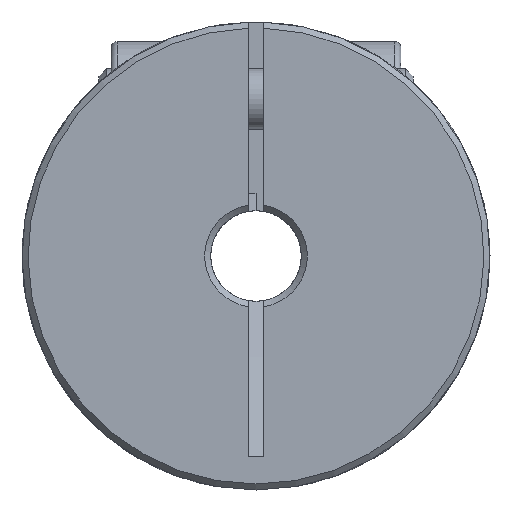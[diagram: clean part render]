
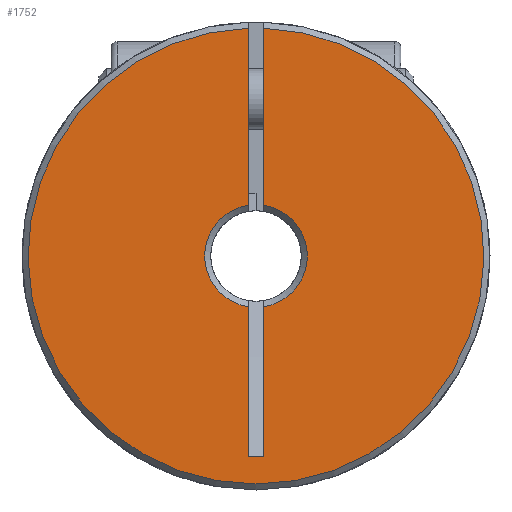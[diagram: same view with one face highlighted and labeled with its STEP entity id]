
A CAD part, left-side view. The second image highlights one B-rep face of the part: STEP entity #1752.
In plain terms, the highlighted planar face has unit normal (-1, 0, 0).
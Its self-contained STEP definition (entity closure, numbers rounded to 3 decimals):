
#132=LINE('',#2822,#212);
#135=LINE('',#2833,#215);
#138=LINE('',#2864,#218);
#143=LINE('',#2886,#223);
#144=LINE('',#2894,#224);
#212=VECTOR('',#2187,1000.);
#215=VECTOR('',#2192,1000.);
#218=VECTOR('',#2207,1000.);
#223=VECTOR('',#2216,1000.);
#224=VECTOR('',#2219,1000.);
#382=ORIENTED_EDGE('',*,*,#799,.T.);
#383=ORIENTED_EDGE('',*,*,#748,.F.);
#384=ORIENTED_EDGE('',*,*,#758,.F.);
#385=ORIENTED_EDGE('',*,*,#768,.T.);
#386=ORIENTED_EDGE('',*,*,#800,.T.);
#387=ORIENTED_EDGE('',*,*,#766,.T.);
#388=ORIENTED_EDGE('',*,*,#801,.F.);
#389=ORIENTED_EDGE('',*,*,#744,.F.);
#744=EDGE_CURVE('',#957,#958,#132,.T.);
#748=EDGE_CURVE('',#961,#962,#135,.T.);
#758=EDGE_CURVE('',#970,#961,#138,.T.);
#766=EDGE_CURVE('',#973,#977,#143,.T.);
#768=EDGE_CURVE('',#970,#978,#144,.T.);
#799=EDGE_CURVE('',#957,#962,#1122,.T.);
#800=EDGE_CURVE('',#978,#973,#1123,.T.);
#801=EDGE_CURVE('',#958,#977,#1124,.T.);
#957=VERTEX_POINT('',#2821);
#958=VERTEX_POINT('',#2823);
#961=VERTEX_POINT('',#2834);
#962=VERTEX_POINT('',#2835);
#970=VERTEX_POINT('',#2863);
#973=VERTEX_POINT('',#2873);
#977=VERTEX_POINT('',#2885);
#978=VERTEX_POINT('',#2892);
#1122=CIRCLE('',#1924,1.7);
#1123=CIRCLE('',#1925,1.7);
#1124=CIRCLE('',#1926,7.55);
#1245=EDGE_LOOP('',(#382,#383,#384,#385,#386,#387,#388,#389));
#1471=FACE_BOUND('',#1245,.T.);
#1680=PLANE('',#1923);
#1752=ADVANCED_FACE('',(#1471),#1680,.F.);
#1923=AXIS2_PLACEMENT_3D('',#3018,#2269,#2270);
#1924=AXIS2_PLACEMENT_3D('',#3019,#2271,#2272);
#1925=AXIS2_PLACEMENT_3D('',#3020,#2273,#2274);
#1926=AXIS2_PLACEMENT_3D('',#3021,#2275,#2276);
#2187=DIRECTION('',(0.,0.,1.));
#2192=DIRECTION('',(0.,0.,1.));
#2207=DIRECTION('',(0.,-1.,0.));
#2216=DIRECTION('',(0.,0.,1.));
#2219=DIRECTION('',(0.,0.,1.));
#2269=DIRECTION('',(1.,0.,0.));
#2270=DIRECTION('',(0.,0.,-1.));
#2271=DIRECTION('',(1.,0.,0.));
#2272=DIRECTION('',(0.,0.,-1.));
#2273=DIRECTION('',(1.,0.,0.));
#2274=DIRECTION('',(0.,0.,-1.));
#2275=DIRECTION('',(1.,0.,0.));
#2276=DIRECTION('',(0.,0.,-1.));
#2821=CARTESIAN_POINT('',(0.,-0.25,1.682));
#2822=CARTESIAN_POINT('',(0.,-0.25,-6.624));
#2823=CARTESIAN_POINT('',(0.,-0.25,7.546));
#2833=CARTESIAN_POINT('',(0.,-0.25,-6.624));
#2834=CARTESIAN_POINT('',(0.,-0.25,-6.624));
#2835=CARTESIAN_POINT('',(0.,-0.25,-1.682));
#2863=CARTESIAN_POINT('',(0.,0.25,-6.624));
#2864=CARTESIAN_POINT('',(0.,0.25,-6.624));
#2873=CARTESIAN_POINT('',(0.,0.25,1.682));
#2885=CARTESIAN_POINT('',(0.,0.25,7.546));
#2886=CARTESIAN_POINT('',(0.,0.25,-6.624));
#2892=CARTESIAN_POINT('',(0.,0.25,-1.682));
#2894=CARTESIAN_POINT('',(0.,0.25,-6.624));
#3018=CARTESIAN_POINT('',(0.,0.,0.));
#3019=CARTESIAN_POINT('',(0.,0.,0.));
#3020=CARTESIAN_POINT('',(0.,0.,0.));
#3021=CARTESIAN_POINT('',(0.,0.,0.));
